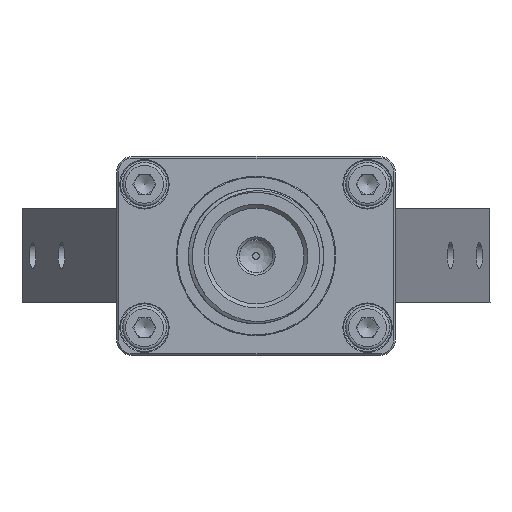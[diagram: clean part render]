
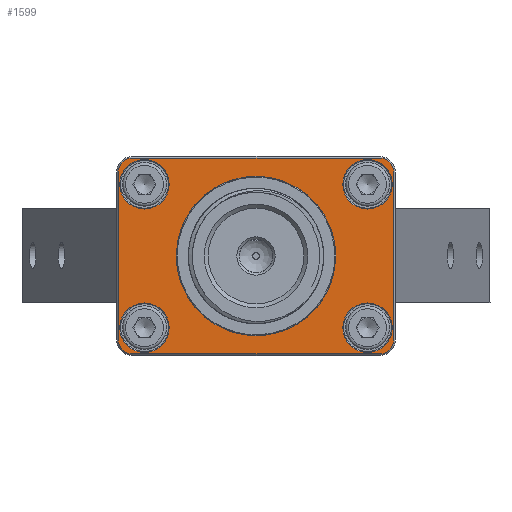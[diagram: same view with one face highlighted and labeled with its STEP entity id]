
A CAD part, front view. The second image highlights one B-rep face of the part: STEP entity #1599.
In plain terms, the highlighted planar face has unit normal (0, -1, 0).
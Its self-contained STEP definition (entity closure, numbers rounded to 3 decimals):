
#662=FACE_BOUND('',#2650,.T.);
#663=FACE_BOUND('',#2651,.T.);
#664=FACE_BOUND('',#2652,.T.);
#665=FACE_BOUND('',#2653,.T.);
#666=FACE_BOUND('',#2654,.T.);
#667=FACE_BOUND('',#2655,.T.);
#1158=CIRCLE('',#7547,10.);
#1159=CIRCLE('',#7549,3.1);
#1160=CIRCLE('',#7551,3.1);
#1161=CIRCLE('',#7553,3.1);
#1162=CIRCLE('',#7555,3.1);
#1163=CIRCLE('',#7557,1.8);
#1164=CIRCLE('',#7558,1.8);
#1165=CIRCLE('',#7559,1.8);
#1166=CIRCLE('',#7560,1.8);
#1599=ADVANCED_FACE('',(#662,#663,#664,#665,#666,#667),#1945,.T.);
#1945=PLANE('',#7561);
#2650=EDGE_LOOP('',(#4178,#4179,#4180,#4181,#4182,#4183,#4184,#4185));
#2651=EDGE_LOOP('',(#4186));
#2652=EDGE_LOOP('',(#4187));
#2653=EDGE_LOOP('',(#4188));
#2654=EDGE_LOOP('',(#4189));
#2655=EDGE_LOOP('',(#4190));
#4178=ORIENTED_EDGE('',*,*,#6011,.T.);
#4179=ORIENTED_EDGE('',*,*,#6012,.T.);
#4180=ORIENTED_EDGE('',*,*,#6013,.T.);
#4181=ORIENTED_EDGE('',*,*,#6014,.T.);
#4182=ORIENTED_EDGE('',*,*,#6015,.T.);
#4183=ORIENTED_EDGE('',*,*,#6016,.T.);
#4184=ORIENTED_EDGE('',*,*,#6017,.T.);
#4185=ORIENTED_EDGE('',*,*,#6018,.T.);
#4186=ORIENTED_EDGE('',*,*,#6010,.T.);
#4187=ORIENTED_EDGE('',*,*,#6009,.T.);
#4188=ORIENTED_EDGE('',*,*,#6008,.T.);
#4189=ORIENTED_EDGE('',*,*,#6007,.T.);
#4190=ORIENTED_EDGE('',*,*,#6006,.T.);
#5181=VERTEX_POINT('',#19293);
#5182=VERTEX_POINT('',#19296);
#5183=VERTEX_POINT('',#19299);
#5184=VERTEX_POINT('',#19302);
#5185=VERTEX_POINT('',#19305);
#5186=VERTEX_POINT('',#19308);
#5187=VERTEX_POINT('',#19309);
#5188=VERTEX_POINT('',#19311);
#5189=VERTEX_POINT('',#19313);
#5190=VERTEX_POINT('',#19315);
#5191=VERTEX_POINT('',#19317);
#5192=VERTEX_POINT('',#19319);
#5193=VERTEX_POINT('',#19321);
#6006=EDGE_CURVE('',#5181,#5181,#1158,.T.);
#6007=EDGE_CURVE('',#5182,#5182,#1159,.T.);
#6008=EDGE_CURVE('',#5183,#5183,#1160,.T.);
#6009=EDGE_CURVE('',#5184,#5184,#1161,.T.);
#6010=EDGE_CURVE('',#5185,#5185,#1162,.T.);
#6011=EDGE_CURVE('',#5186,#5187,#6588,.T.);
#6012=EDGE_CURVE('',#5187,#5188,#1163,.T.);
#6013=EDGE_CURVE('',#5188,#5189,#6589,.T.);
#6014=EDGE_CURVE('',#5189,#5190,#1164,.T.);
#6015=EDGE_CURVE('',#5190,#5191,#6590,.T.);
#6016=EDGE_CURVE('',#5191,#5192,#1165,.T.);
#6017=EDGE_CURVE('',#5192,#5193,#6591,.T.);
#6018=EDGE_CURVE('',#5193,#5186,#1166,.T.);
#6588=LINE('',#19307,#6974);
#6589=LINE('',#19312,#6975);
#6590=LINE('',#19316,#6976);
#6591=LINE('',#19320,#6977);
#6974=VECTOR('',#9193,1.);
#6975=VECTOR('',#9196,1.);
#6976=VECTOR('',#9199,1.);
#6977=VECTOR('',#9202,1.);
#7547=AXIS2_PLACEMENT_3D('',#19292,#9173,#9174);
#7549=AXIS2_PLACEMENT_3D('',#19295,#9177,#9178);
#7551=AXIS2_PLACEMENT_3D('',#19298,#9181,#9182);
#7553=AXIS2_PLACEMENT_3D('',#19301,#9185,#9186);
#7555=AXIS2_PLACEMENT_3D('',#19304,#9189,#9190);
#7557=AXIS2_PLACEMENT_3D('',#19310,#9194,#9195);
#7558=AXIS2_PLACEMENT_3D('',#19314,#9197,#9198);
#7559=AXIS2_PLACEMENT_3D('',#19318,#9200,#9201);
#7560=AXIS2_PLACEMENT_3D('',#19322,#9203,#9204);
#7561=AXIS2_PLACEMENT_3D('',#19323,#9205,#9206);
#9173=DIRECTION('',(0.,1.,0.));
#9174=DIRECTION('',(1.,0.,0.));
#9177=DIRECTION('',(0.,1.,0.));
#9178=DIRECTION('',(0.,0.,-1.));
#9181=DIRECTION('',(0.,1.,0.));
#9182=DIRECTION('',(0.,0.,-1.));
#9185=DIRECTION('',(0.,1.,0.));
#9186=DIRECTION('',(0.,0.,-1.));
#9189=DIRECTION('',(0.,1.,0.));
#9190=DIRECTION('',(0.,0.,-1.));
#9193=DIRECTION('',(-1.,0.,0.));
#9194=DIRECTION('',(0.,-1.,0.));
#9195=DIRECTION('',(0.,0.,-1.));
#9196=DIRECTION('',(0.,0.,-1.));
#9197=DIRECTION('',(0.,-1.,0.));
#9198=DIRECTION('',(0.,0.,-1.));
#9199=DIRECTION('',(1.,0.,0.));
#9200=DIRECTION('',(0.,-1.,0.));
#9201=DIRECTION('',(0.,0.,-1.));
#9202=DIRECTION('',(0.,0.,1.));
#9203=DIRECTION('',(0.,-1.,0.));
#9204=DIRECTION('',(0.,0.,-1.));
#9205=DIRECTION('',(0.,-1.,0.));
#9206=DIRECTION('',(-1.,0.,0.));
#19292=CARTESIAN_POINT('',(0.,-29.5,-12.5));
#19293=CARTESIAN_POINT('',(10.,-29.5,-12.5));
#19295=CARTESIAN_POINT('',(14.,-29.5,-21.5));
#19296=CARTESIAN_POINT('',(14.,-29.5,-24.6));
#19298=CARTESIAN_POINT('',(14.,-29.5,-3.5));
#19299=CARTESIAN_POINT('',(14.,-29.5,-6.6));
#19301=CARTESIAN_POINT('',(-14.,-29.5,-3.5));
#19302=CARTESIAN_POINT('',(-14.,-29.5,-6.6));
#19304=CARTESIAN_POINT('',(-14.,-29.5,-21.5));
#19305=CARTESIAN_POINT('',(-14.,-29.5,-24.6));
#19307=CARTESIAN_POINT('',(-14.,-29.5,-0.2));
#19308=CARTESIAN_POINT('',(15.5,-29.5,-0.2));
#19309=CARTESIAN_POINT('',(-15.5,-29.5,-0.2));
#19310=CARTESIAN_POINT('',(-15.5,-29.5,-2.));
#19311=CARTESIAN_POINT('',(-17.3,-29.5,-2.));
#19312=CARTESIAN_POINT('',(-17.3,-29.5,-21.5));
#19313=CARTESIAN_POINT('',(-17.3,-29.5,-23.));
#19314=CARTESIAN_POINT('',(-15.5,-29.5,-23.));
#19315=CARTESIAN_POINT('',(-15.5,-29.5,-24.8));
#19316=CARTESIAN_POINT('',(-14.,-29.5,-24.8));
#19317=CARTESIAN_POINT('',(15.5,-29.5,-24.8));
#19318=CARTESIAN_POINT('',(15.5,-29.5,-23.));
#19319=CARTESIAN_POINT('',(17.3,-29.5,-23.));
#19320=CARTESIAN_POINT('',(17.3,-29.5,-21.5));
#19321=CARTESIAN_POINT('',(17.3,-29.5,-2.));
#19322=CARTESIAN_POINT('',(15.5,-29.5,-2.));
#19323=CARTESIAN_POINT('',(-14.,-29.5,-21.5));
